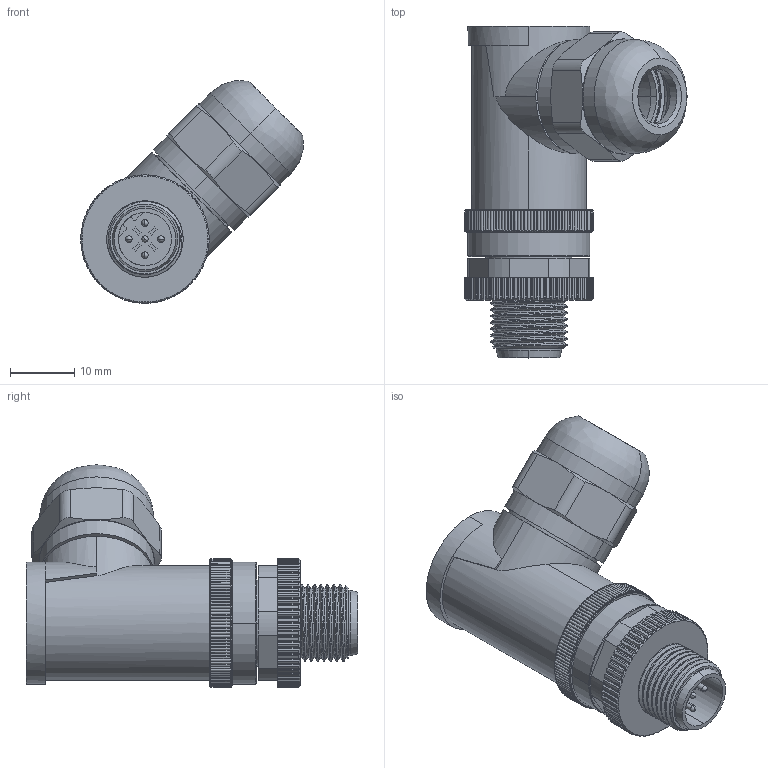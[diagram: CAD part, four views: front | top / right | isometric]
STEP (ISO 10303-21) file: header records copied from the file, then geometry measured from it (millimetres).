
FILE_DESCRIPTION((''),'2;1');
FILE_NAME('XC-M12P-RWK-PG9','2025-06-23T14:55:38',('lyj'),(''),'CREO PARAMETRIC BY PTC INC, 2019010','CREO PARAMETRIC BY PTC INC, 2019010','');
FILE_SCHEMA(('CONFIG_CONTROL_DESIGN'));
Length unit declared in the file: millimetre
Products named in the file (1): XC-M12P-RWK-PG9
Bounding box: 34.66 x 51.7 x 34.66 mm (x, y, z)
Volume: 10227.8 mm3; surface area: 14111.1 mm2
Topology: 1 solids, 16 shells, 1701 faces, 4473 edges, 2842 vertices
Faces by surface type: cylinder 829, plane 377, cone 373, bspline 60, extrusion 28, torus 24, sphere 10
Entity records: 83791 total; most frequent: CARTESIAN_POINT 43659, ORIENTED_EDGE 8926, DIRECTION 7711, EDGE_CURVE 4463, AXIS2_PLACEMENT_3D 3072, VERTEX_POINT 2842, EDGE_LOOP 1793, FACE_OUTER_BOUND 1701
